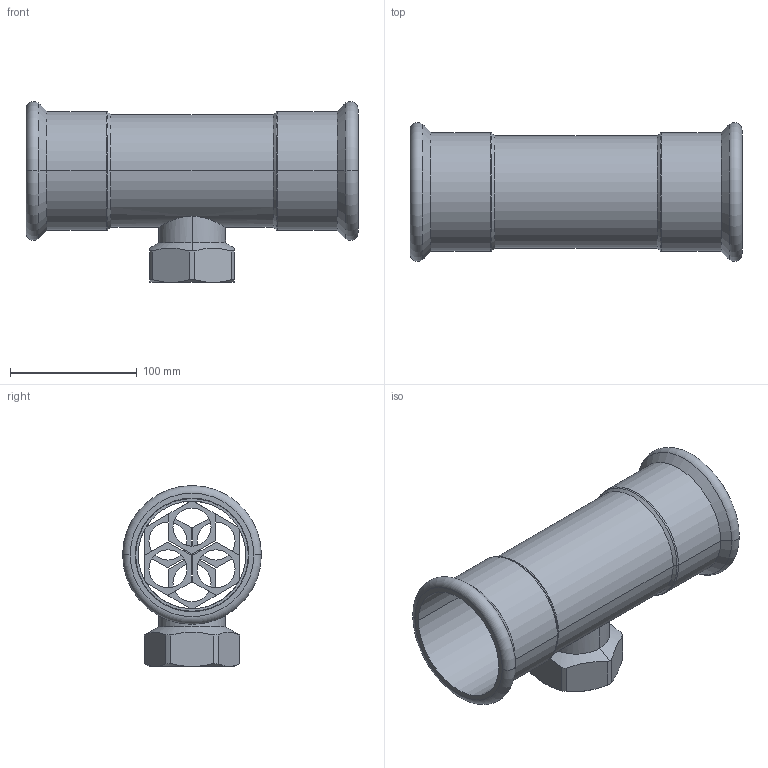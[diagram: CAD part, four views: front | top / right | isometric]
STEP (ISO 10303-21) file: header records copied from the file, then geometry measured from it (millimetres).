
FILE_DESCRIPTION(('OneSpaceDesigner STEP Export'),'2;1');
FILE_NAME('R2718 89xRp2x89.stp','2010-06-10T12:42:07',(''),(''),'OneSpace Designer STEP processor for AP214 (Solid Model)','OneSpace Modeling 15.00A 14-Mar-2007 (C) CoCreate Software GmbH','');
FILE_SCHEMA(('AUTOMOTIVE_DESIGN { 1 0 10303 214 1 1 1 1 }'));
Length unit declared in the file: millimetre
Products named in the file (2): R2718_89xRp2x89
Assembly tree (1 placements, depth 2):
  R2718_89xRp2x89
    R2718_89xRp2x89
Bounding box: 262 x 109.48 x 142.74 mm (x, y, z)
Volume: 254551.1 mm3; surface area: 183894.4 mm2
Topology: 1 solids, 1 shells, 148 faces, 368 edges, 234 vertices
Faces by surface type: plane 68, cylinder 48, cone 24, torus 8
Entity records: 6125 total; most frequent: CARTESIAN_POINT 2912, ORIENTED_EDGE 736, DIRECTION 542, EDGE_CURVE 368, VERTEX_POINT 234, VECTOR 204, LINE 204, EDGE_LOOP 176
